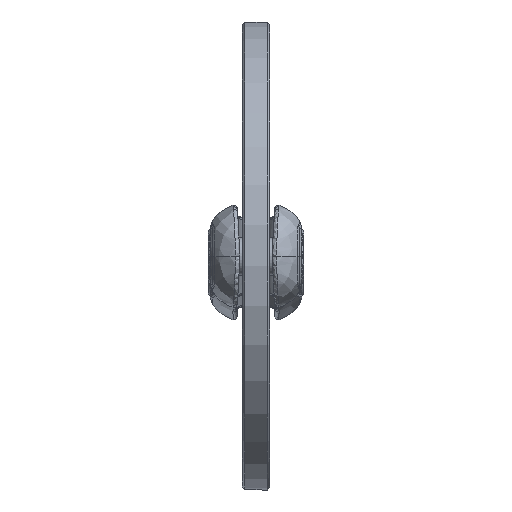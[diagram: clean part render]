
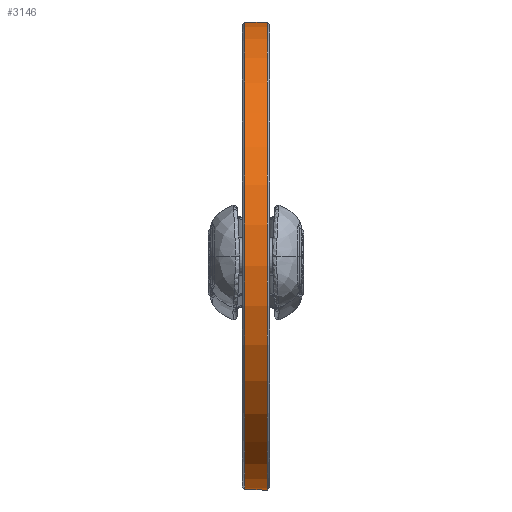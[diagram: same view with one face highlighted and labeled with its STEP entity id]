
A CAD part, top view. The second image highlights one B-rep face of the part: STEP entity #3146.
In plain terms, the highlighted cylindrical face has radius 167.5 mm (diameter 335 mm), a full revolution.
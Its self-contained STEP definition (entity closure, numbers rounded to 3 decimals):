
#777=FACE_BOUND($,#1449,.T.);
#960=CIRCLE($,#3488,167.5);
#961=CIRCLE($,#3490,167.5);
#1155=FACE_OUTER_BOUND($,#1448,.T.);
#1448=EDGE_LOOP($,(#2888));
#1449=EDGE_LOOP($,(#2889));
#1736=VERTEX_POINT($,#13731);
#1737=VERTEX_POINT($,#13734);
#2125=EDGE_CURVE($,#1736,#1736,#960,.T.);
#2126=EDGE_CURVE($,#1737,#1737,#961,.T.);
#2888=ORIENTED_EDGE($,*,*,#2126,.F.);
#2889=ORIENTED_EDGE($,*,*,#2125,.F.);
#2939=CYLINDRICAL_SURFACE($,#3489,167.5);
#3146=ADVANCED_FACE($,(#1155,#777),#2939,.T.);
#3488=AXIS2_PLACEMENT_3D($,#13732,#4233,#4234);
#3489=AXIS2_PLACEMENT_3D($,#13733,#4235,#4236);
#3490=AXIS2_PLACEMENT_3D($,#13735,#4237,#4238);
#4233=DIRECTION('center_axis',(0.,0.,-1.));
#4234=DIRECTION('ref_axis',(-1.,0.,0.));
#4235=DIRECTION('center_axis',(0.,0.,1.));
#4236=DIRECTION('ref_axis',(-1.,0.,0.));
#4237=DIRECTION('center_axis',(0.,0.,1.));
#4238=DIRECTION('ref_axis',(-1.,0.,0.));
#13731=CARTESIAN_POINT('',(167.5,0.,-8.));
#13732=CARTESIAN_POINT('Origin',(0.,0.,-8.));
#13733=CARTESIAN_POINT('Origin',(0.,0.,0.));
#13734=CARTESIAN_POINT('',(167.5,0.,8.));
#13735=CARTESIAN_POINT('Origin',(0.,0.,8.));
